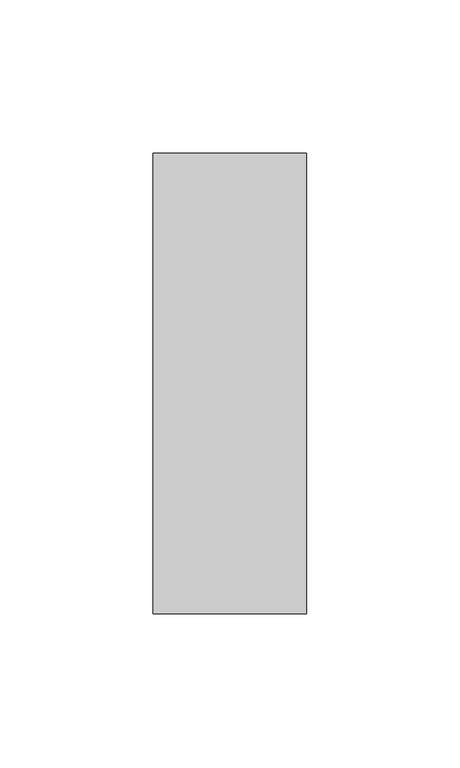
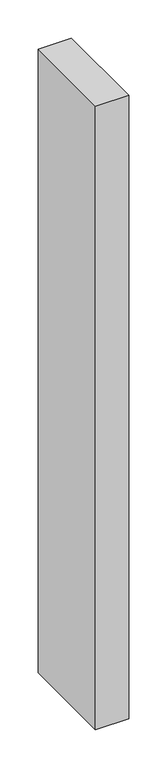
"""IFC4 building model written with IfcOpenShell, lengths in millimetres: member geometry, Прямоугольный импост : 50 x 150 мм."""

from ifc_helpers import new_model, si_unit, frame, origin, place, context, project, spatial, polyline, outline, extrude, source, transform, mapped, element, save


def member_51773357(model_context):
    return source(origin(), model_context, "Body", "SweptSolid", [
        extrude(outline(polyline([(25.0, 75.0), (25.0, -75.0), (-25.0, -75.0), (-25.0, 75.0), (25.0, 75.0)])), frame((0.0, 0.0, -996.8012254), z_axis=(0.0, 0.0, 1.0), x_axis=(1.0, 0.0, 0.0)), (0.0, 0.0, 1.0), 996.8012254),
    ])


if __name__ == "__main__":
    model = new_model("IFC4")
    model_context = context("Model", 3, world=origin())
    ifc_project = project(units=[si_unit("LENGTHUNIT", "METRE", prefix="MILLI")], contexts=[model_context])
    site = spatial("IfcSite", under=ifc_project)
    building = spatial("IfcBuilding", under=site)
    placement = place(None, origin())
    member_shape = member_51773357(model_context)
    element("IfcMember", 1, ObjectType="Прямоугольный импост : 50 x 150 мм", at=placement, inside=building, context=model_context, shape_type="MappedRepresentation", body=[
        mapped(member_shape, transform((0.0, 0.0, 0.0), x_axis=(1.0, 0.0, 0.0), y_axis=(0.0, 1.0, 0.0), z_axis=(0.0, 0.0, 1.0))),
    ])
    save(model, "model.ifc")
